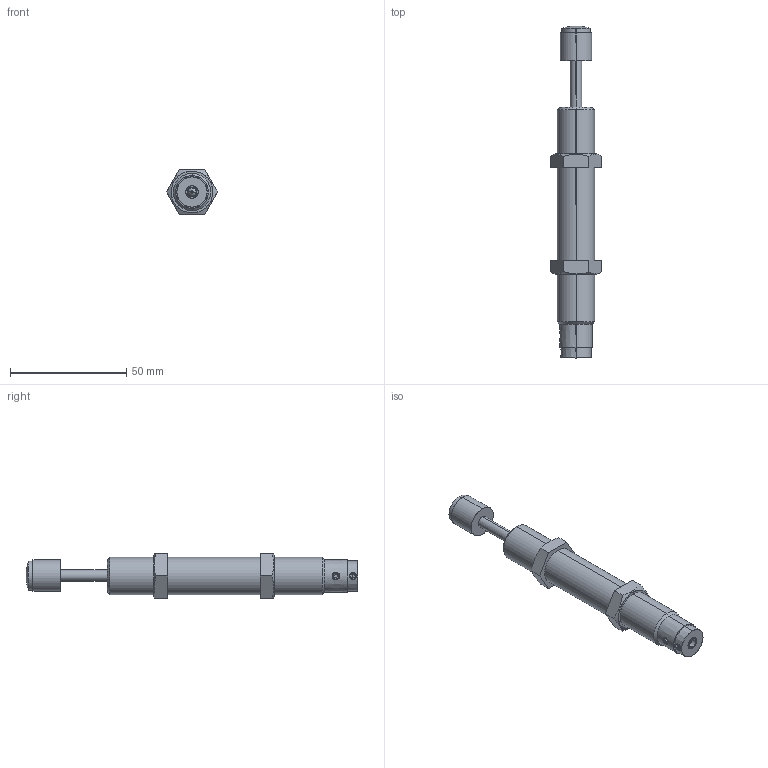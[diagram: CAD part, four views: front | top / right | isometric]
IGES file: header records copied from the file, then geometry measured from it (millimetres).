
Start section: SolidWorks IGES file using analytic representation for surfaces
Bounding box: 21.94 x 143 x 19 mm (x, y, z)
Surface area: 9048.7 mm2 (no closed solid volume)
Topology: 0 solids, 0 shells, 109 faces, 1654 edges, 1653 vertices
Faces by surface type: bspline 57, revolution 52
